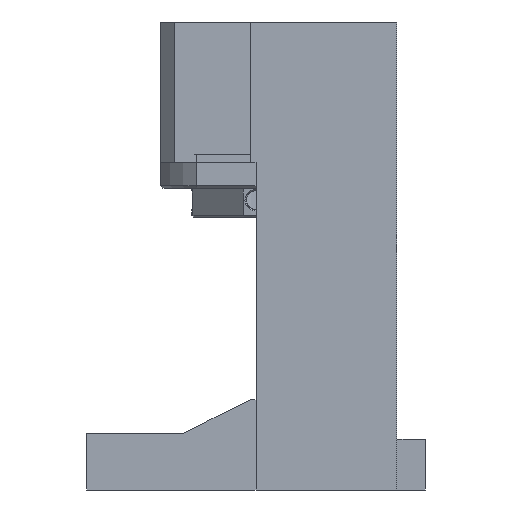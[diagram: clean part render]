
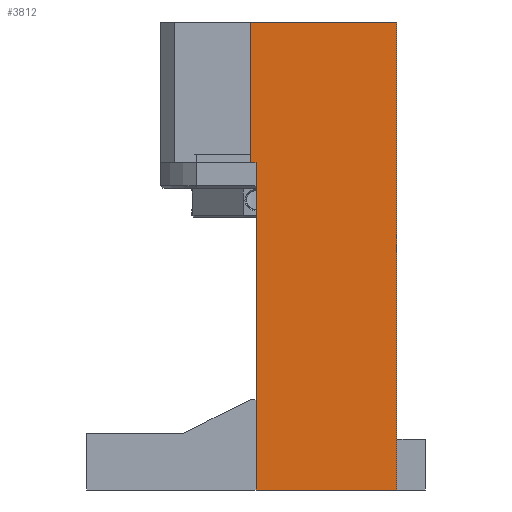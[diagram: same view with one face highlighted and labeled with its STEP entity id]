
A CAD part, left-side view. The second image highlights one B-rep face of the part: STEP entity #3812.
In plain terms, the highlighted planar face has unit normal (-1, 0, 0).
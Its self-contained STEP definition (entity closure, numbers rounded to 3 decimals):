
#129 = LINE ( 'NONE', #6434, #9782 ) ;
#139 = VERTEX_POINT ( 'NONE', #1673 ) ;
#165 = EDGE_CURVE ( 'NONE', #9283, #139, #8191, .T. ) ;
#261 = DIRECTION ( 'NONE',  ( 0., -1., 0. ) ) ;
#638 = ORIENTED_EDGE ( 'NONE', *, *, #165, .T. ) ;
#768 = FACE_OUTER_BOUND ( 'NONE', #6701, .T. ) ;
#1010 = DIRECTION ( 'NONE',  ( -1., 0., 0. ) ) ;
#1047 = CARTESIAN_POINT ( 'NONE',  ( -35., 1., -18. ) ) ;
#1237 = DIRECTION ( 'NONE',  ( 0., 0., 1. ) ) ;
#1380 = CARTESIAN_POINT ( 'NONE',  ( -35., -30., -78. ) ) ;
#1495 = DIRECTION ( 'NONE',  ( 0., -1., 0. ) ) ;
#1673 = CARTESIAN_POINT ( 'NONE',  ( -35., -25., -78. ) ) ;
#1804 = ORIENTED_EDGE ( 'NONE', *, *, #7508, .F. ) ;
#1844 = LINE ( 'NONE', #5538, #7191 ) ;
#1948 = VECTOR ( 'NONE', #1237, 1000. ) ;
#2090 = LINE ( 'NONE', #2209, #9814 ) ;
#2196 = LINE ( 'NONE', #4496, #1948 ) ;
#2209 = CARTESIAN_POINT ( 'NONE',  ( -35., 1., 5. ) ) ;
#2390 = DIRECTION ( 'NONE',  ( 0., 0., 1. ) ) ;
#2531 = EDGE_CURVE ( 'NONE', #9283, #9072, #2196, .T. ) ;
#2590 = CARTESIAN_POINT ( 'NONE',  ( -35., -25., 5. ) ) ;
#2682 = PLANE ( 'NONE',  #6999 ) ;
#3144 = EDGE_CURVE ( 'NONE', #3538, #4727, #2090, .T. ) ;
#3538 = VERTEX_POINT ( 'NONE', #3972 ) ;
#3721 = VERTEX_POINT ( 'NONE', #5263 ) ;
#3729 = CARTESIAN_POINT ( 'NONE',  ( -35., 0., -78. ) ) ;
#3812 = ADVANCED_FACE ( 'NONE', ( #768 ), #2682, .T. ) ;
#3952 = DIRECTION ( 'NONE',  ( 0., 1., 0. ) ) ;
#3972 = CARTESIAN_POINT ( 'NONE',  ( -35., 1., 5. ) ) ;
#4385 = DIRECTION ( 'NONE',  ( 0., -1., 0. ) ) ;
#4496 = CARTESIAN_POINT ( 'NONE',  ( -35., 0., 0. ) ) ;
#4727 = VERTEX_POINT ( 'NONE', #2590 ) ;
#4752 = ORIENTED_EDGE ( 'NONE', *, *, #2531, .F. ) ;
#4770 = EDGE_CURVE ( 'NONE', #139, #4727, #129, .T. ) ;
#5032 = CARTESIAN_POINT ( 'NONE',  ( -35., 0., -20. ) ) ;
#5220 = ORIENTED_EDGE ( 'NONE', *, *, #4770, .T. ) ;
#5263 = CARTESIAN_POINT ( 'NONE',  ( -35., 1., -20. ) ) ;
#5431 = ORIENTED_EDGE ( 'NONE', *, *, #3144, .F. ) ;
#5538 = CARTESIAN_POINT ( 'NONE',  ( -35., 1., -18. ) ) ;
#6373 = DIRECTION ( 'NONE',  ( 0., 0., 1. ) ) ;
#6434 = CARTESIAN_POINT ( 'NONE',  ( -35., -25., -18. ) ) ;
#6557 = VECTOR ( 'NONE', #1495, 1000. ) ;
#6559 = LINE ( 'NONE', #8947, #8424 ) ;
#6598 = EDGE_CURVE ( 'NONE', #9072, #3721, #6559, .T. ) ;
#6701 = EDGE_LOOP ( 'NONE', ( #1804, #8041, #4752, #638, #5220, #5431 ) ) ;
#6999 = AXIS2_PLACEMENT_3D ( 'NONE', #1047, #1010, #261 ) ;
#7191 = VECTOR ( 'NONE', #2390, 1000. ) ;
#7508 = EDGE_CURVE ( 'NONE', #3721, #3538, #1844, .T. ) ;
#8041 = ORIENTED_EDGE ( 'NONE', *, *, #6598, .F. ) ;
#8191 = LINE ( 'NONE', #1380, #6557 ) ;
#8424 = VECTOR ( 'NONE', #3952, 1000. ) ;
#8947 = CARTESIAN_POINT ( 'NONE',  ( -35., 0., -20. ) ) ;
#9072 = VERTEX_POINT ( 'NONE', #5032 ) ;
#9283 = VERTEX_POINT ( 'NONE', #3729 ) ;
#9782 = VECTOR ( 'NONE', #6373, 1000. ) ;
#9814 = VECTOR ( 'NONE', #4385, 1000. ) ;
